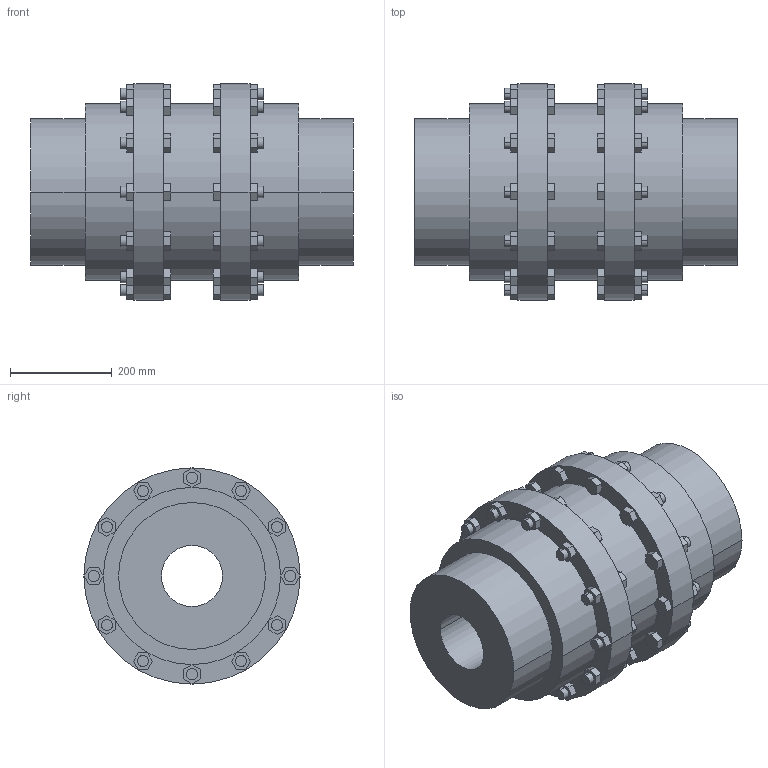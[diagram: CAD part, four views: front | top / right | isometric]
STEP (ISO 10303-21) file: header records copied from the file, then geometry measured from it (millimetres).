
FILE_DESCRIPTION((''),'2;1');
FILE_NAME('A19046500-0_ASM','2018-10-24T',('AB_Roschiwal'),('RENK AG'),'PRO/ENGINEER BY PARAMETRIC TECHNOLOGY CORPORATION, 2015440','PRO/ENGINEER BY PARAMETRIC TECHNOLOGY CORPORATION, 2015440','');
FILE_SCHEMA(('CONFIG_CONTROL_DESIGN'));
Length unit declared in the file: millimetre
Products named in the file (3): LBLK180_GEHAEUSE; LBLK180_NABE; A19046500-0_ASM
Assembly tree (3 placements, depth 2):
  A19046500-0_ASM
    LBLK180_GEHAEUSE
    LBLK180_NABE  x2
Bounding box: 634 x 425 x 425 mm (x, y, z)
Volume: 39453636.9 mm3; surface area: 2098357.1 mm2
Topology: 3 solids, 3 shells, 456 faces, 1104 edges, 736 vertices
Faces by surface type: plane 376, cylinder 80
Entity records: 12972 total; most frequent: CARTESIAN_POINT 2250, ORIENTED_EDGE 2160, DIRECTION 2124, EDGE_CURVE 1080, VECTOR 936, LINE 936, VERTEX_POINT 720, AXIS2_PLACEMENT_3D 594
